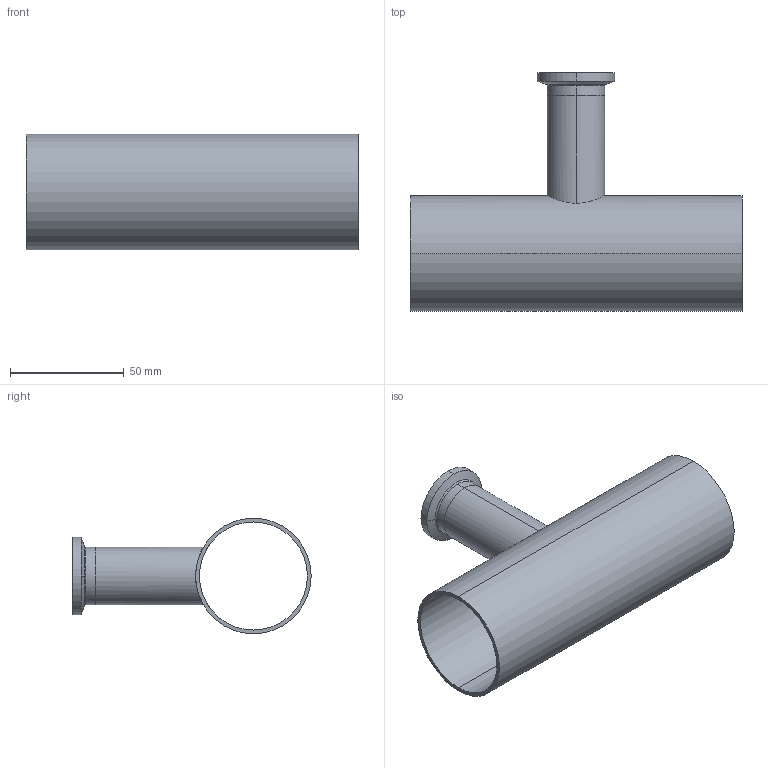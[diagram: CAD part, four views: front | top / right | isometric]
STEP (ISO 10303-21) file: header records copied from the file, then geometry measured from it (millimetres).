
FILE_DESCRIPTION (( 'STEP AP214' ), '1' );
FILE_NAME ('TE7RWWC6L2.0x1.0-..Type A.STEP', '2016-05-23T08:18:01', ( 'eran' ), ( '' ), 'SwSTEP 2.0', 'SolidWorks 2016', '' );
FILE_SCHEMA (( 'AUTOMOTIVE_DESIGN' ));
Length unit declared in the file: millimetre
Products named in the file (1): TE7RWWC6L2.0x1.0-..Type A
Bounding box: 146 x 104.8 x 50.8 mm (x, y, z)
Volume: 44654.7 mm3; surface area: 54377.9 mm2
Topology: 2 solids, 2 shells, 34 faces, 84 edges, 56 vertices
Faces by surface type: cylinder 16, bspline 8, plane 6, cone 4
Entity records: 1375 total; most frequent: CARTESIAN_POINT 503, DIRECTION 186, ORIENTED_EDGE 168, EDGE_CURVE 84, AXIS2_PLACEMENT_3D 83, VERTEX_POINT 56, CIRCLE 56, EDGE_LOOP 42
